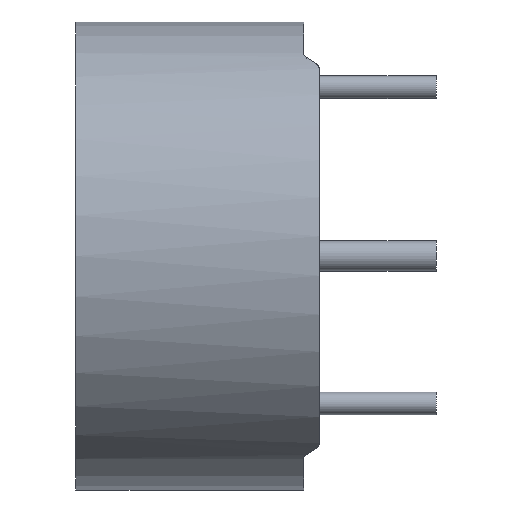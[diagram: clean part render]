
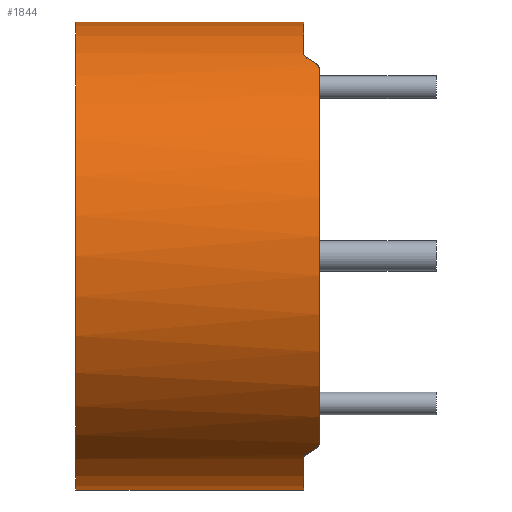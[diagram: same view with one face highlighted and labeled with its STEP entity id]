
A CAD part, left-side view. The second image highlights one B-rep face of the part: STEP entity #1844.
In plain terms, the highlighted cylindrical face has radius 19.05 mm (diameter 38.1 mm), a partial arc.
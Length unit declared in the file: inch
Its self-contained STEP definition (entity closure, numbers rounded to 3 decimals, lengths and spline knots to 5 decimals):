
#134 = LINE ( 'NONE', #778, #8408 ) ;
#229 = CARTESIAN_POINT ( 'NONE',  ( 0., 0.39, -0.75 ) ) ;
#279 = ORIENTED_EDGE ( 'NONE', *, *, #493, .F. ) ;
#359 = CYLINDRICAL_SURFACE ( 'NONE', #7325, 0.75 ) ;
#493 = EDGE_CURVE ( 'NONE', #6064, #6928, #134, .T. ) ;
#523 = VERTEX_POINT ( 'NONE', #3114 ) ;
#541 = VERTEX_POINT ( 'NONE', #2298 ) ;
#581 = EDGE_CURVE ( 'NONE', #8114, #4357, #6125, .T. ) ;
#590 = CARTESIAN_POINT ( 'NONE',  ( -0.38274, -0.34073, -0.645 ) ) ;
#611 = CARTESIAN_POINT ( 'NONE',  ( -0.42871, -0.38121, -0.61539 ) ) ;
#623 = CARTESIAN_POINT ( 'NONE',  ( 0., 0.39, -0.75 ) ) ;
#777 = CARTESIAN_POINT ( 'NONE',  ( -0.42871, -0.38121, -0.61539 ) ) ;
#778 = CARTESIAN_POINT ( 'NONE',  ( 0., 0.39, 0.75 ) ) ;
#854 = VERTEX_POINT ( 'NONE', #8123 ) ;
#951 = ORIENTED_EDGE ( 'NONE', *, *, #4155, .T. ) ;
#1027 = ORIENTED_EDGE ( 'NONE', *, *, #4955, .F. ) ;
#1154 = CARTESIAN_POINT ( 'NONE',  ( -0.39629, -0.34879, 0.63675 ) ) ;
#1320 = CARTESIAN_POINT ( 'NONE',  ( -0.39629, -0.34879, 0.63675 ) ) ;
#1471 = DIRECTION ( 'NONE',  ( 0., 1., 0. ) ) ;
#1484 = B_SPLINE_CURVE_WITH_KNOTS ( 'NONE', 3,
 ( #6436, #6474, #590, #4382, #5667, #5840 ),
 .UNSPECIFIED., .F., .F.,
 ( 4, 2, 4 ),
 ( 0., 0.00034, 0.00067 ),
 .UNSPECIFIED. ) ;
#1654 = CARTESIAN_POINT ( 'NONE',  ( -0.44614, -0.39, 0.60289 ) ) ;
#1774 = CARTESIAN_POINT ( 'NONE',  ( -0.44993, -0.39, 0.60006 ) ) ;
#1809 = CARTESIAN_POINT ( 'NONE',  ( -0.39629, -0.34879, -0.63675 ) ) ;
#1843 = ORIENTED_EDGE ( 'NONE', *, *, #4277, .T. ) ;
#1844 = ADVANCED_FACE ( 'NONE', ( #7484 ), #359, .T. ) ;
#1845 = EDGE_CURVE ( 'NONE', #3318, #541, #2975, .T. ) ;
#1851 = CARTESIAN_POINT ( 'NONE',  ( 0., 0.39, 0.75 ) ) ;
#2066 = DIRECTION ( 'NONE',  ( 0., 1., 0. ) ) ;
#2085 = EDGE_CURVE ( 'NONE', #854, #2624, #5404, .T. ) ;
#2119 = CIRCLE ( 'NONE', #7597, 0.75 ) ;
#2298 = CARTESIAN_POINT ( 'NONE',  ( 0., -0.34, -0.75 ) ) ;
#2326 =( BOUNDED_CURVE ( )  B_SPLINE_CURVE ( 3, ( #5334, #7943, #4687, #777 ),
 .UNSPECIFIED., .F., .F. ) 
 B_SPLINE_CURVE_WITH_KNOTS ( ( 4, 4 ),
 ( 5.26908, 5.32086 ),
 .UNSPECIFIED. ) 
 CURVE ( )  GEOMETRIC_REPRESENTATION_ITEM ( )  RATIONAL_B_SPLINE_CURVE ( ( 1., 1., 1., 1. ) ) 
 REPRESENTATION_ITEM ( '' )  );
#2544 = AXIS2_PLACEMENT_3D ( 'NONE', #3088, #7598, #6958 ) ;
#2624 = VERTEX_POINT ( 'NONE', #1774 ) ;
#2696 = EDGE_CURVE ( 'NONE', #5097, #854, #4182, .T. ) ;
#2739 = EDGE_CURVE ( 'NONE', #7079, #6928, #2119, .T. ) ;
#2827 = CARTESIAN_POINT ( 'NONE',  ( 0., -0.39, 0. ) ) ;
#2848 = CARTESIAN_POINT ( 'NONE',  ( 0., 0.39, 0. ) ) ;
#2975 = LINE ( 'NONE', #229, #4030 ) ;
#2987 = ORIENTED_EDGE ( 'NONE', *, *, #2085, .T. ) ;
#3071 = CARTESIAN_POINT ( 'NONE',  ( -0.41809, -0.37059, 0.62279 ) ) ;
#3088 = CARTESIAN_POINT ( 'NONE',  ( 0., -0.34, 0. ) ) ;
#3114 = CARTESIAN_POINT ( 'NONE',  ( -0.37507, -0.34, -0.64948 ) ) ;
#3318 = VERTEX_POINT ( 'NONE', #623 ) ;
#3388 = ORIENTED_EDGE ( 'NONE', *, *, #8397, .T. ) ;
#4030 = VECTOR ( 'NONE', #5596, 39.37008 ) ;
#4078 = CARTESIAN_POINT ( 'NONE',  ( -0.37507, -0.34, 0.64948 ) ) ;
#4098 = ORIENTED_EDGE ( 'NONE', *, *, #2739, .T. ) ;
#4155 = EDGE_CURVE ( 'NONE', #6118, #5097, #2326, .T. ) ;
#4164 = ORIENTED_EDGE ( 'NONE', *, *, #1845, .T. ) ;
#4182 = B_SPLINE_CURVE_WITH_KNOTS ( 'NONE', 3,
 ( #611, #4524, #5211, #7184 ),
 .UNSPECIFIED., .F., .F.,
 ( 4, 4 ),
 ( 0., 0.00071 ),
 .UNSPECIFIED. ) ;
#4277 = EDGE_CURVE ( 'NONE', #541, #523, #6258, .T. ) ;
#4357 = VERTEX_POINT ( 'NONE', #1154 ) ;
#4382 = CARTESIAN_POINT ( 'NONE',  ( -0.38998, -0.34368, -0.64065 ) ) ;
#4524 = CARTESIAN_POINT ( 'NONE',  ( -0.43472, -0.38722, -0.6112 ) ) ;
#4573 = ORIENTED_EDGE ( 'NONE', *, *, #2696, .T. ) ;
#4671 = CARTESIAN_POINT ( 'NONE',  ( -0.38287, -0.34, 0.64498 ) ) ;
#4687 = CARTESIAN_POINT ( 'NONE',  ( -0.41809, -0.37059, -0.62279 ) ) ;
#4803 = DIRECTION ( 'NONE',  ( 0., 0., 1. ) ) ;
#4902 = EDGE_LOOP ( 'NONE', ( #279, #1027, #4164, #1843, #3388, #951, #4573, #2987, #5524, #6793, #6464, #4098 ) ) ;
#4926 = CARTESIAN_POINT ( 'NONE',  ( -0.42871, -0.38121, 0.61539 ) ) ;
#4955 = EDGE_CURVE ( 'NONE', #3318, #6064, #7339, .T. ) ;
#5097 = VERTEX_POINT ( 'NONE', #7984 ) ;
#5165 = DIRECTION ( 'NONE',  ( 0., -1., 0. ) ) ;
#5211 = CARTESIAN_POINT ( 'NONE',  ( -0.44237, -0.39, -0.60572 ) ) ;
#5334 = CARTESIAN_POINT ( 'NONE',  ( -0.39629, -0.34879, -0.63675 ) ) ;
#5404 = CIRCLE ( 'NONE', #6762, 0.75 ) ;
#5431 = CARTESIAN_POINT ( 'NONE',  ( 0., -0.34, 0. ) ) ;
#5524 = ORIENTED_EDGE ( 'NONE', *, *, #7819, .T. ) ;
#5596 = DIRECTION ( 'NONE',  ( 0., -1., 0. ) ) ;
#5605 = B_SPLINE_CURVE_WITH_KNOTS ( 'NONE', 3,
 ( #1320, #5916, #4671, #4078 ),
 .UNSPECIFIED., .F., .F.,
 ( 4, 4 ),
 ( 0., 0.00068 ),
 .UNSPECIFIED. ) ;
#5652 = CARTESIAN_POINT ( 'NONE',  ( -0.37507, -0.34, 0.64948 ) ) ;
#5654 = CARTESIAN_POINT ( 'NONE',  ( -0.44242, -0.38931, 0.60563 ) ) ;
#5667 = CARTESIAN_POINT ( 'NONE',  ( -0.39336, -0.34586, -0.63857 ) ) ;
#5840 = CARTESIAN_POINT ( 'NONE',  ( -0.39629, -0.34879, -0.63675 ) ) ;
#5916 = CARTESIAN_POINT ( 'NONE',  ( -0.39045, -0.34295, 0.64039 ) ) ;
#6064 = VERTEX_POINT ( 'NONE', #1851 ) ;
#6118 = VERTEX_POINT ( 'NONE', #1809 ) ;
#6125 =( BOUNDED_CURVE ( )  B_SPLINE_CURVE ( 3, ( #4926, #3071, #6256, #6211 ),
 .UNSPECIFIED., .F., .F. ) 
 B_SPLINE_CURVE_WITH_KNOTS ( ( 4, 4 ),
 ( 0.96232, 1.0141 ),
 .UNSPECIFIED. ) 
 CURVE ( )  GEOMETRIC_REPRESENTATION_ITEM ( )  RATIONAL_B_SPLINE_CURVE ( ( 1., 1., 1., 1. ) ) 
 REPRESENTATION_ITEM ( '' )  );
#6132 = CARTESIAN_POINT ( 'NONE',  ( -0.43514, -0.3864, 0.61088 ) ) ;
#6205 = B_SPLINE_CURVE_WITH_KNOTS ( 'NONE', 3,
 ( #8183, #1654, #5654, #6132, #8260, #6811 ),
 .UNSPECIFIED., .F., .F.,
 ( 4, 2, 4 ),
 ( 0., 0.00036, 0.00071 ),
 .UNSPECIFIED. ) ;
#6211 = CARTESIAN_POINT ( 'NONE',  ( -0.39629, -0.34879, 0.63675 ) ) ;
#6256 = CARTESIAN_POINT ( 'NONE',  ( -0.40728, -0.35978, 0.62991 ) ) ;
#6258 = CIRCLE ( 'NONE', #2544, 0.75 ) ;
#6436 = CARTESIAN_POINT ( 'NONE',  ( -0.37507, -0.34, -0.64948 ) ) ;
#6464 = ORIENTED_EDGE ( 'NONE', *, *, #6794, .T. ) ;
#6474 = CARTESIAN_POINT ( 'NONE',  ( -0.37898, -0.34, -0.64722 ) ) ;
#6762 = AXIS2_PLACEMENT_3D ( 'NONE', #2827, #7932, #4803 ) ;
#6793 = ORIENTED_EDGE ( 'NONE', *, *, #581, .T. ) ;
#6794 = EDGE_CURVE ( 'NONE', #4357, #7079, #5605, .T. ) ;
#6797 = DIRECTION ( 'NONE',  ( 0., -1., 0. ) ) ;
#6811 = CARTESIAN_POINT ( 'NONE',  ( -0.42871, -0.38121, 0.61539 ) ) ;
#6928 = VERTEX_POINT ( 'NONE', #8182 ) ;
#6958 = DIRECTION ( 'NONE',  ( 0., 0., 1. ) ) ;
#7060 = AXIS2_PLACEMENT_3D ( 'NONE', #7177, #2066, #7771 ) ;
#7079 = VERTEX_POINT ( 'NONE', #5652 ) ;
#7177 = CARTESIAN_POINT ( 'NONE',  ( 0., 0.39, 0. ) ) ;
#7184 = CARTESIAN_POINT ( 'NONE',  ( -0.44993, -0.39, -0.60006 ) ) ;
#7325 = AXIS2_PLACEMENT_3D ( 'NONE', #2848, #6797, #7399 ) ;
#7339 = CIRCLE ( 'NONE', #7060, 0.75 ) ;
#7399 = DIRECTION ( 'NONE',  ( 0., 0., -1. ) ) ;
#7484 = FACE_OUTER_BOUND ( 'NONE', #4902, .T. ) ;
#7533 = CARTESIAN_POINT ( 'NONE',  ( -0.42871, -0.38121, 0.61539 ) ) ;
#7597 = AXIS2_PLACEMENT_3D ( 'NONE', #5431, #1471, #8038 ) ;
#7598 = DIRECTION ( 'NONE',  ( 0., 1., 0. ) ) ;
#7771 = DIRECTION ( 'NONE',  ( 0., 0., 1. ) ) ;
#7819 = EDGE_CURVE ( 'NONE', #2624, #8114, #6205, .T. ) ;
#7932 = DIRECTION ( 'NONE',  ( 0., 1., 0. ) ) ;
#7943 = CARTESIAN_POINT ( 'NONE',  ( -0.40728, -0.35978, -0.62991 ) ) ;
#7984 = CARTESIAN_POINT ( 'NONE',  ( -0.42871, -0.38121, -0.61539 ) ) ;
#8038 = DIRECTION ( 'NONE',  ( 0., 0., 1. ) ) ;
#8114 = VERTEX_POINT ( 'NONE', #7533 ) ;
#8123 = CARTESIAN_POINT ( 'NONE',  ( -0.44993, -0.39, -0.60006 ) ) ;
#8182 = CARTESIAN_POINT ( 'NONE',  ( 0., -0.34, 0.75 ) ) ;
#8183 = CARTESIAN_POINT ( 'NONE',  ( -0.44993, -0.39, 0.60006 ) ) ;
#8260 = CARTESIAN_POINT ( 'NONE',  ( -0.43173, -0.38423, 0.61329 ) ) ;
#8397 = EDGE_CURVE ( 'NONE', #523, #6118, #1484, .T. ) ;
#8408 = VECTOR ( 'NONE', #5165, 39.37008 ) ;
